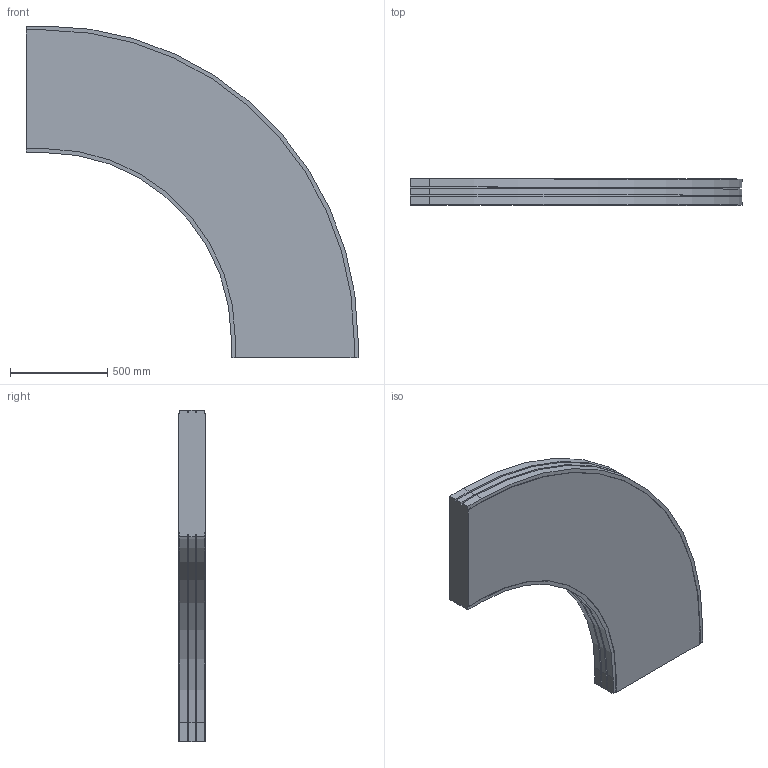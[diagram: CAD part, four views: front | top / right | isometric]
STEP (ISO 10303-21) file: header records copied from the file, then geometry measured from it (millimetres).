
FILE_DESCRIPTION (( 'STEP AP214' ), '1' );
FILE_NAME ('02.150H90.650.N FS-MTC-150 Bocht horizontaal 90°.STEP', '2013-03-29T11:21:05', ( 'Gebruiker' ), ( '' ), 'SwSTEP 2.0', 'SolidWorks 2012', '' );
FILE_SCHEMA (( 'AUTOMOTIVE_DESIGN' ));
Length unit declared in the file: millimetre
Products named in the file (1): 02.150H90.650.N FS-MTC-150 Bocht horizontaal 90°
Bounding box: 1705.25 x 136 x 1705.25 mm (x, y, z)
Volume: 194290224.8 mm3; surface area: 3847617.7 mm2
Topology: 1 solids, 1 shells, 58 faces, 168 edges, 112 vertices
Faces by surface type: plane 44, cylinder 14
Entity records: 1934 total; most frequent: CARTESIAN_POINT 339, ORIENTED_EDGE 336, DIRECTION 314, EDGE_CURVE 168, LINE 140, VECTOR 140, VERTEX_POINT 112, AXIS2_PLACEMENT_3D 87
